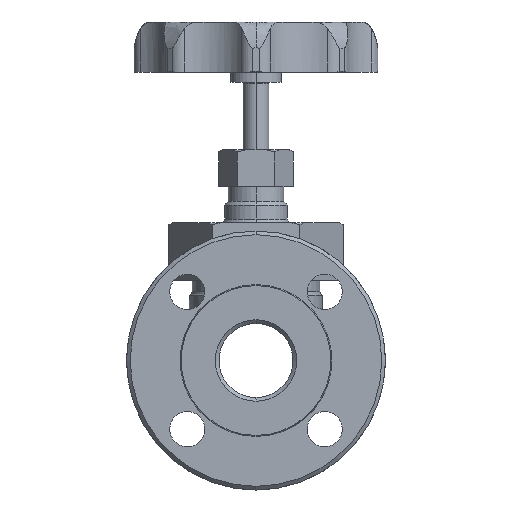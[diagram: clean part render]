
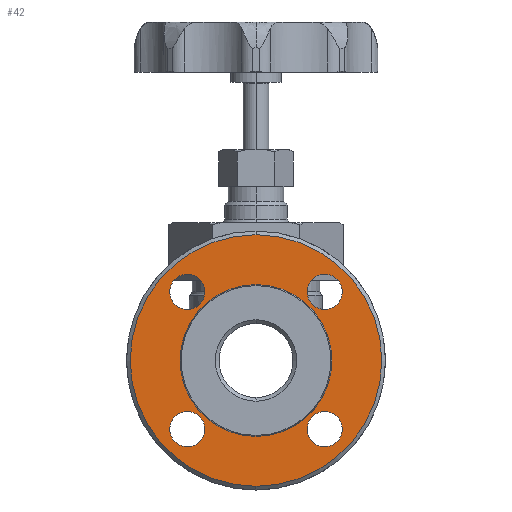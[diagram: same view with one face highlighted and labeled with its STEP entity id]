
A CAD part, left-side view. The second image highlights one B-rep face of the part: STEP entity #42.
In plain terms, the highlighted planar face has unit normal (-1, 0, 0).
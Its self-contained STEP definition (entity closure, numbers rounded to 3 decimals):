
#42=ADVANCED_FACE('',(#310,#311,#312,#313,#314,#315),#309,.F.);
#309=PLANE('',#2847);
#310=FACE_OUTER_BOUND('',#2848,.T.);
#311=FACE_BOUND('',#2849,.T.);
#312=FACE_BOUND('',#2850,.T.);
#313=FACE_BOUND('',#2851,.T.);
#314=FACE_BOUND('',#2852,.T.);
#315=FACE_BOUND('',#2853,.T.);
#2844=CARTESIAN_POINT('',(-88.,-127.779,78.));
#2845=DIRECTION('',(1.,0.,0.));
#2846=DIRECTION('',(0.,0.,-1.));
#2847=AXIS2_PLACEMENT_3D('',#2844,#2845,#2846);
#2848=EDGE_LOOP('',(#4766,#4767));
#2849=EDGE_LOOP('',(#4768,#4769));
#2850=EDGE_LOOP('',(#4770,#4771));
#2851=EDGE_LOOP('',(#4772,#4773));
#2852=EDGE_LOOP('',(#4774,#4775));
#2853=EDGE_LOOP('',(#4776,#4777));
#4766=ORIENTED_EDGE('',*,*,#6190,.T.);
#4767=ORIENTED_EDGE('',*,*,#6191,.T.);
#4768=ORIENTED_EDGE('',*,*,#6192,.T.);
#4769=ORIENTED_EDGE('',*,*,#6193,.T.);
#4770=ORIENTED_EDGE('',*,*,#6194,.F.);
#4771=ORIENTED_EDGE('',*,*,#6195,.F.);
#4772=ORIENTED_EDGE('',*,*,#6196,.T.);
#4773=ORIENTED_EDGE('',*,*,#6197,.T.);
#4774=ORIENTED_EDGE('',*,*,#6198,.T.);
#4775=ORIENTED_EDGE('',*,*,#6199,.T.);
#4776=ORIENTED_EDGE('',*,*,#6200,.T.);
#4777=ORIENTED_EDGE('',*,*,#6201,.T.);
#6190=EDGE_CURVE('',#6924,#6925,#6926,.T.);
#6191=EDGE_CURVE('',#6925,#6924,#6932,.T.);
#6192=EDGE_CURVE('',#6938,#6939,#6940,.T.);
#6193=EDGE_CURVE('',#6939,#6938,#6946,.T.);
#6194=EDGE_CURVE('',#6952,#6953,#6954,.T.);
#6195=EDGE_CURVE('',#6953,#6952,#6960,.T.);
#6196=EDGE_CURVE('',#6966,#6967,#6968,.T.);
#6197=EDGE_CURVE('',#6967,#6966,#6974,.T.);
#6198=EDGE_CURVE('',#6980,#6981,#6982,.T.);
#6199=EDGE_CURVE('',#6981,#6980,#6988,.T.);
#6200=EDGE_CURVE('',#6994,#6995,#6996,.T.);
#6201=EDGE_CURVE('',#6995,#6994,#7002,.T.);
#6924=VERTEX_POINT('',#11788);
#6925=VERTEX_POINT('',#11789);
#6926=CIRCLE('',#11793,68.);
#6932=CIRCLE('',#11797,68.);
#6938=VERTEX_POINT('',#11798);
#6939=VERTEX_POINT('',#11799);
#6940=CIRCLE('',#11803,9.5);
#6946=CIRCLE('',#11807,9.5);
#6952=VERTEX_POINT('',#11808);
#6953=VERTEX_POINT('',#11809);
#6954=CIRCLE('',#11813,41.036);
#6960=CIRCLE('',#11817,41.036);
#6966=VERTEX_POINT('',#11818);
#6967=VERTEX_POINT('',#11819);
#6968=CIRCLE('',#11823,9.5);
#6974=CIRCLE('',#11827,9.5);
#6980=VERTEX_POINT('',#11828);
#6981=VERTEX_POINT('',#11829);
#6982=CIRCLE('',#11833,9.5);
#6988=CIRCLE('',#11837,9.5);
#6994=VERTEX_POINT('',#11838);
#6995=VERTEX_POINT('',#11839);
#6996=CIRCLE('',#11843,9.5);
#7002=CIRCLE('',#11847,9.5);
#11788=CARTESIAN_POINT('',(-88.,0.,68.));
#11789=CARTESIAN_POINT('',(-88.,0.,-68.));
#11790=CARTESIAN_POINT('',(-88.,0.,0.));
#11791=DIRECTION('',(-1.,0.,0.));
#11792=DIRECTION('',(0.,0.,1.));
#11793=AXIS2_PLACEMENT_3D('',#11790,#11791,#11792);
#11794=CARTESIAN_POINT('',(-88.,0.,0.));
#11795=DIRECTION('',(-1.,0.,0.));
#11796=DIRECTION('',(0.,0.,1.));
#11797=AXIS2_PLACEMENT_3D('',#11794,#11795,#11796);
#11798=CARTESIAN_POINT('',(-88.,37.123,46.623));
#11799=CARTESIAN_POINT('',(-88.,37.123,27.623));
#11800=CARTESIAN_POINT('',(-88.,37.123,37.123));
#11801=DIRECTION('',(1.,0.,0.));
#11802=DIRECTION('',(0.,0.,1.));
#11803=AXIS2_PLACEMENT_3D('',#11800,#11801,#11802);
#11804=CARTESIAN_POINT('',(-88.,37.123,37.123));
#11805=DIRECTION('',(1.,0.,0.));
#11806=DIRECTION('',(0.,0.,1.));
#11807=AXIS2_PLACEMENT_3D('',#11804,#11805,#11806);
#11808=CARTESIAN_POINT('',(-88.,0.,-41.036));
#11809=CARTESIAN_POINT('',(-88.,0.,41.036));
#11810=CARTESIAN_POINT('',(-88.,0.,0.));
#11811=DIRECTION('',(-1.,0.,0.));
#11812=DIRECTION('',(0.,0.,1.));
#11813=AXIS2_PLACEMENT_3D('',#11810,#11811,#11812);
#11814=CARTESIAN_POINT('',(-88.,0.,0.));
#11815=DIRECTION('',(-1.,0.,0.));
#11816=DIRECTION('',(0.,0.,1.));
#11817=AXIS2_PLACEMENT_3D('',#11814,#11815,#11816);
#11818=CARTESIAN_POINT('',(-88.,-37.123,-27.623));
#11819=CARTESIAN_POINT('',(-88.,-37.123,-46.623));
#11820=CARTESIAN_POINT('',(-88.,-37.123,-37.123));
#11821=DIRECTION('',(1.,0.,0.));
#11822=DIRECTION('',(0.,0.,1.));
#11823=AXIS2_PLACEMENT_3D('',#11820,#11821,#11822);
#11824=CARTESIAN_POINT('',(-88.,-37.123,-37.123));
#11825=DIRECTION('',(1.,0.,0.));
#11826=DIRECTION('',(0.,0.,1.));
#11827=AXIS2_PLACEMENT_3D('',#11824,#11825,#11826);
#11828=CARTESIAN_POINT('',(-88.,-37.123,46.623));
#11829=CARTESIAN_POINT('',(-88.,-37.123,27.623));
#11830=CARTESIAN_POINT('',(-88.,-37.123,37.123));
#11831=DIRECTION('',(1.,0.,0.));
#11832=DIRECTION('',(0.,0.,1.));
#11833=AXIS2_PLACEMENT_3D('',#11830,#11831,#11832);
#11834=CARTESIAN_POINT('',(-88.,-37.123,37.123));
#11835=DIRECTION('',(1.,0.,0.));
#11836=DIRECTION('',(0.,0.,1.));
#11837=AXIS2_PLACEMENT_3D('',#11834,#11835,#11836);
#11838=CARTESIAN_POINT('',(-88.,37.123,-27.623));
#11839=CARTESIAN_POINT('',(-88.,37.123,-46.623));
#11840=CARTESIAN_POINT('',(-88.,37.123,-37.123));
#11841=DIRECTION('',(1.,0.,0.));
#11842=DIRECTION('',(0.,0.,1.));
#11843=AXIS2_PLACEMENT_3D('',#11840,#11841,#11842);
#11844=CARTESIAN_POINT('',(-88.,37.123,-37.123));
#11845=DIRECTION('',(1.,0.,0.));
#11846=DIRECTION('',(0.,0.,1.));
#11847=AXIS2_PLACEMENT_3D('',#11844,#11845,#11846);
